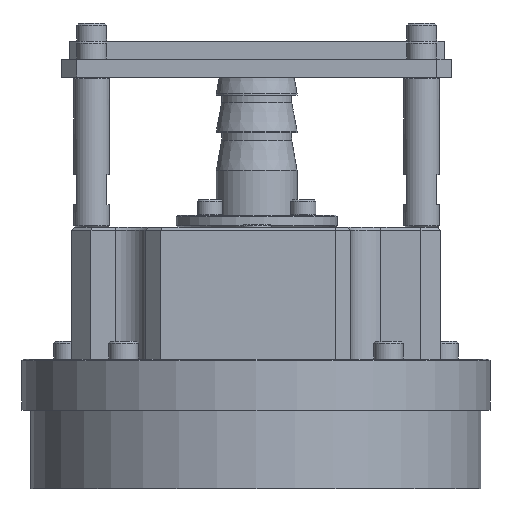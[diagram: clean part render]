
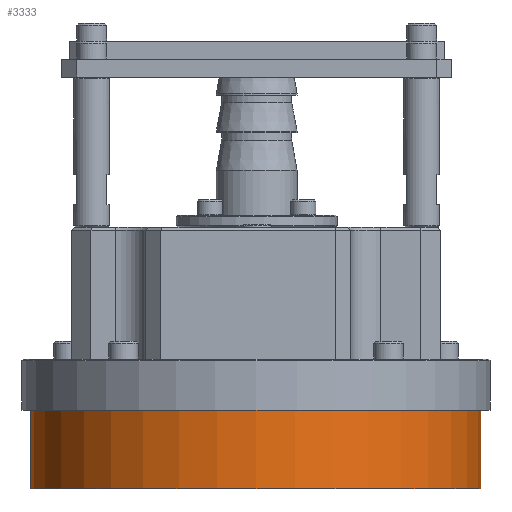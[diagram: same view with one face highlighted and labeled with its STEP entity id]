
A CAD part, left-side view. The second image highlights one B-rep face of the part: STEP entity #3333.
In plain terms, the highlighted cylindrical face has radius 75 mm (diameter 150 mm), a partial arc.
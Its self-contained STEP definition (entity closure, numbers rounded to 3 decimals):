
#3333=ADVANCED_FACE('',(#6754),#6755,.T.);
#6754=FACE_OUTER_BOUND('',#10795,.T.);
#6755=CYLINDRICAL_SURFACE('',#10796,75.0);
#10795=EDGE_LOOP('',(#16944,#16945,#16946,#16947));
#10796=AXIS2_PLACEMENT_3D('',#16948,#16949,#16950);
#16944=ORIENTED_EDGE('',*,*,#22114,.F.);
#16945=ORIENTED_EDGE('',*,*,#22101,.F.);
#16946=ORIENTED_EDGE('',*,*,#22120,.T.);
#16947=ORIENTED_EDGE('',*,*,#22109,.T.);
#16948=CARTESIAN_POINT('',(-100.0,0.0,3.2));
#16949=DIRECTION('',(0.0,0.0,-1.0));
#16950=DIRECTION('',(-1.0,0.0,0.0));
#22101=EDGE_CURVE('',#25343,#25338,#25345,.T.);
#22109=EDGE_CURVE('',#25359,#25357,#25360,.T.);
#22114=EDGE_CURVE('',#25338,#25357,#25366,.T.);
#22120=EDGE_CURVE('',#25343,#25359,#25374,.T.);
#25338=VERTEX_POINT('',#29713);
#25343=VERTEX_POINT('',#29720);
#25345=LINE('',#29723,#29724);
#25357=VERTEX_POINT('',#29740);
#25359=VERTEX_POINT('',#29743);
#25360=LINE('',#29744,#29745);
#25366=CIRCLE('',#29753,75.0);
#25374=CIRCLE('',#29762,75.0);
#29713=CARTESIAN_POINT('',(-100.0,75.0,3.2));
#29720=CARTESIAN_POINT('',(-100.0,75.0,-29.8));
#29723=CARTESIAN_POINT('',(-100.0,75.0,-29.8));
#29724=VECTOR('',#33808,1.0);
#29740=CARTESIAN_POINT('',(-100.0,-75.0,3.2));
#29743=CARTESIAN_POINT('',(-100.0,-75.0,-29.8));
#29744=CARTESIAN_POINT('',(-100.0,-75.0,-29.8));
#29745=VECTOR('',#33814,1.0);
#29753=AXIS2_PLACEMENT_3D('',#33820,#33821,#33822);
#29762=AXIS2_PLACEMENT_3D('',#33833,#33834,#33835);
#33808=DIRECTION('',(0.0,0.0,1.0));
#33814=DIRECTION('',(0.0,0.0,1.0));
#33820=CARTESIAN_POINT('',(-100.0,0.0,3.2));
#33821=DIRECTION('',(0.0,0.0,1.0));
#33822=DIRECTION('',(1.0,0.0,0.0));
#33833=CARTESIAN_POINT('',(-100.0,0.0,-29.8));
#33834=DIRECTION('',(0.0,0.0,1.0));
#33835=DIRECTION('',(1.0,0.0,0.0));
